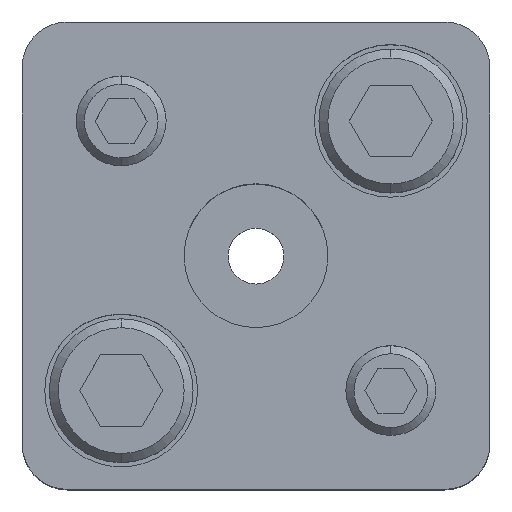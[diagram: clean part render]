
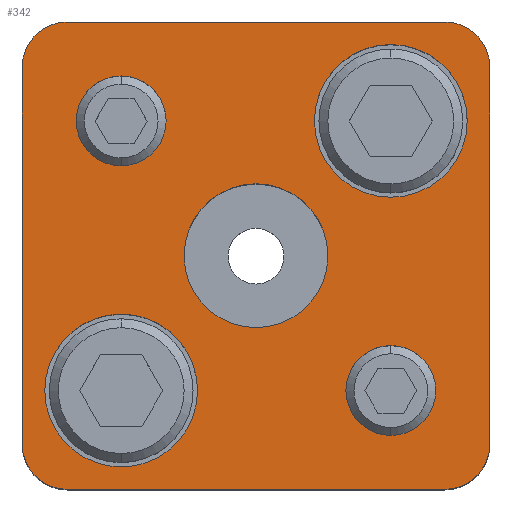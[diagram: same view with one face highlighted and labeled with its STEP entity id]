
A CAD part, top view. The second image highlights one B-rep face of the part: STEP entity #342.
In plain terms, the highlighted planar face has unit normal (0, 0, 1).
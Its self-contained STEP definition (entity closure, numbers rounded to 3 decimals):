
#169=PLANE('',#2888);
#244=FACE_BOUND('',#729,.T.);
#245=FACE_BOUND('',#730,.T.);
#246=FACE_BOUND('',#731,.T.);
#247=FACE_BOUND('',#732,.T.);
#248=FACE_BOUND('',#733,.T.);
#249=FACE_BOUND('',#734,.T.);
#342=ADVANCED_FACE('',(#244,#245,#246,#247,#248,#249),#169,.T.);
#729=EDGE_LOOP('',(#1539,#1540,#1541,#1542,#1543,#1544,#1545,#1546));
#730=EDGE_LOOP('',(#1547,#1548));
#731=EDGE_LOOP('',(#1549,#1550));
#732=EDGE_LOOP('',(#1551,#1552));
#733=EDGE_LOOP('',(#1553,#1554));
#734=EDGE_LOOP('',(#1555,#1556));
#907=LINE('',#4261,#1103);
#908=LINE('',#4265,#1104);
#909=LINE('',#4269,#1105);
#910=LINE('',#4273,#1106);
#1103=VECTOR('',#3427,1.);
#1104=VECTOR('',#3430,1.);
#1105=VECTOR('',#3433,1.);
#1106=VECTOR('',#3436,1.);
#1539=ORIENTED_EDGE('',*,*,#2357,.T.);
#1540=ORIENTED_EDGE('',*,*,#2358,.T.);
#1541=ORIENTED_EDGE('',*,*,#2359,.T.);
#1542=ORIENTED_EDGE('',*,*,#2360,.T.);
#1543=ORIENTED_EDGE('',*,*,#2361,.T.);
#1544=ORIENTED_EDGE('',*,*,#2362,.T.);
#1545=ORIENTED_EDGE('',*,*,#2363,.T.);
#1546=ORIENTED_EDGE('',*,*,#2364,.T.);
#1547=ORIENTED_EDGE('',*,*,#2365,.F.);
#1548=ORIENTED_EDGE('',*,*,#2366,.F.);
#1549=ORIENTED_EDGE('',*,*,#2367,.F.);
#1550=ORIENTED_EDGE('',*,*,#2368,.F.);
#1551=ORIENTED_EDGE('',*,*,#2343,.F.);
#1552=ORIENTED_EDGE('',*,*,#2339,.F.);
#1553=ORIENTED_EDGE('',*,*,#2337,.F.);
#1554=ORIENTED_EDGE('',*,*,#2333,.F.);
#1555=ORIENTED_EDGE('',*,*,#2369,.T.);
#1556=ORIENTED_EDGE('',*,*,#2370,.T.);
#2053=VERTEX_POINT('',#4209);
#2054=VERTEX_POINT('',#4210);
#2057=VERTEX_POINT('',#4222);
#2058=VERTEX_POINT('',#4223);
#2069=VERTEX_POINT('',#4259);
#2070=VERTEX_POINT('',#4260);
#2071=VERTEX_POINT('',#4262);
#2072=VERTEX_POINT('',#4264);
#2073=VERTEX_POINT('',#4266);
#2074=VERTEX_POINT('',#4268);
#2075=VERTEX_POINT('',#4270);
#2076=VERTEX_POINT('',#4272);
#2077=VERTEX_POINT('',#4275);
#2078=VERTEX_POINT('',#4276);
#2079=VERTEX_POINT('',#4279);
#2080=VERTEX_POINT('',#4280);
#2081=VERTEX_POINT('',#4283);
#2082=VERTEX_POINT('',#4284);
#2333=EDGE_CURVE('',#2053,#2054,#2635,.T.);
#2337=EDGE_CURVE('',#2054,#2053,#2637,.T.);
#2339=EDGE_CURVE('',#2057,#2058,#2639,.T.);
#2343=EDGE_CURVE('',#2058,#2057,#2641,.T.);
#2357=EDGE_CURVE('',#2069,#2070,#2651,.T.);
#2358=EDGE_CURVE('',#2070,#2071,#907,.T.);
#2359=EDGE_CURVE('',#2071,#2072,#2652,.T.);
#2360=EDGE_CURVE('',#2072,#2073,#908,.T.);
#2361=EDGE_CURVE('',#2073,#2074,#2653,.T.);
#2362=EDGE_CURVE('',#2074,#2075,#909,.T.);
#2363=EDGE_CURVE('',#2075,#2076,#2654,.T.);
#2364=EDGE_CURVE('',#2076,#2069,#910,.T.);
#2365=EDGE_CURVE('',#2077,#2078,#2655,.T.);
#2366=EDGE_CURVE('',#2078,#2077,#2656,.T.);
#2367=EDGE_CURVE('',#2079,#2080,#2657,.T.);
#2368=EDGE_CURVE('',#2080,#2079,#2658,.T.);
#2369=EDGE_CURVE('',#2081,#2082,#2659,.T.);
#2370=EDGE_CURVE('',#2082,#2081,#2660,.T.);
#2635=CIRCLE('',#2852,5.);
#2637=CIRCLE('',#2855,5.);
#2639=CIRCLE('',#2859,5.);
#2641=CIRCLE('',#2862,5.);
#2651=CIRCLE('',#2878,5.);
#2652=CIRCLE('',#2879,5.);
#2653=CIRCLE('',#2880,5.);
#2654=CIRCLE('',#2881,5.);
#2655=CIRCLE('',#2882,8.5);
#2656=CIRCLE('',#2883,8.5);
#2657=CIRCLE('',#2884,8.5);
#2658=CIRCLE('',#2885,8.5);
#2659=CIRCLE('',#2886,8.);
#2660=CIRCLE('',#2887,8.);
#2852=AXIS2_PLACEMENT_3D('',#4208,#3365,#3366);
#2855=AXIS2_PLACEMENT_3D('',#4217,#3373,#3374);
#2859=AXIS2_PLACEMENT_3D('',#4221,#3381,#3382);
#2862=AXIS2_PLACEMENT_3D('',#4230,#3389,#3390);
#2878=AXIS2_PLACEMENT_3D('',#4258,#3425,#3426);
#2879=AXIS2_PLACEMENT_3D('',#4263,#3428,#3429);
#2880=AXIS2_PLACEMENT_3D('',#4267,#3431,#3432);
#2881=AXIS2_PLACEMENT_3D('',#4271,#3434,#3435);
#2882=AXIS2_PLACEMENT_3D('',#4274,#3437,#3438);
#2883=AXIS2_PLACEMENT_3D('',#4277,#3439,#3440);
#2884=AXIS2_PLACEMENT_3D('',#4278,#3441,#3442);
#2885=AXIS2_PLACEMENT_3D('',#4281,#3443,#3444);
#2886=AXIS2_PLACEMENT_3D('',#4282,#3445,#3446);
#2887=AXIS2_PLACEMENT_3D('',#4285,#3447,#3448);
#2888=AXIS2_PLACEMENT_3D('',#4286,#3449,#3450);
#3365=DIRECTION('',(0.,0.,1.));
#3366=DIRECTION('',(-1.,0.,0.));
#3373=DIRECTION('',(0.,0.,1.));
#3374=DIRECTION('',(1.,0.,0.));
#3381=DIRECTION('',(0.,0.,1.));
#3382=DIRECTION('',(-1.,0.,0.));
#3389=DIRECTION('',(0.,0.,1.));
#3390=DIRECTION('',(1.,0.,0.));
#3425=DIRECTION('',(0.,0.,1.));
#3426=DIRECTION('',(-0.707,0.707,0.));
#3427=DIRECTION('',(0.,1.,0.));
#3428=DIRECTION('',(0.,0.,1.));
#3429=DIRECTION('',(-0.707,-0.707,0.));
#3430=DIRECTION('',(-1.,0.,0.));
#3431=DIRECTION('',(0.,0.,1.));
#3432=DIRECTION('',(0.707,-0.707,0.));
#3433=DIRECTION('',(0.,-1.,0.));
#3434=DIRECTION('',(0.,0.,1.));
#3435=DIRECTION('',(0.707,0.707,0.));
#3436=DIRECTION('',(1.,0.,0.));
#3437=DIRECTION('',(0.,0.,1.));
#3438=DIRECTION('',(1.,0.,0.));
#3439=DIRECTION('',(0.,0.,1.));
#3440=DIRECTION('',(-1.,0.,0.));
#3441=DIRECTION('',(0.,0.,1.));
#3442=DIRECTION('',(1.,0.,0.));
#3443=DIRECTION('',(0.,0.,1.));
#3444=DIRECTION('',(-1.,0.,0.));
#3445=DIRECTION('',(0.,0.,-1.));
#3446=DIRECTION('',(-1.,0.,0.));
#3447=DIRECTION('',(0.,0.,-1.));
#3448=DIRECTION('',(1.,0.,0.));
#3449=DIRECTION('',(0.,0.,1.));
#3450=DIRECTION('',(-1.,0.,0.));
#4208=CARTESIAN_POINT('',(15.,-15.,40.));
#4209=CARTESIAN_POINT('',(15.,-20.,40.));
#4210=CARTESIAN_POINT('',(15.,-10.,40.));
#4217=CARTESIAN_POINT('',(15.,-15.,40.));
#4221=CARTESIAN_POINT('',(-15.,15.,40.));
#4222=CARTESIAN_POINT('',(-15.,10.,40.));
#4223=CARTESIAN_POINT('',(-15.,20.,40.));
#4230=CARTESIAN_POINT('',(-15.,15.,40.));
#4258=CARTESIAN_POINT('',(21.,-21.,40.));
#4259=CARTESIAN_POINT('',(21.,-26.,40.));
#4260=CARTESIAN_POINT('',(26.,-21.,40.));
#4261=CARTESIAN_POINT('',(26.,21.,40.));
#4262=CARTESIAN_POINT('',(26.,21.,40.));
#4263=CARTESIAN_POINT('',(21.,21.,40.));
#4264=CARTESIAN_POINT('',(21.,26.,40.));
#4265=CARTESIAN_POINT('',(-21.,26.,40.));
#4266=CARTESIAN_POINT('',(-21.,26.,40.));
#4267=CARTESIAN_POINT('',(-21.,21.,40.));
#4268=CARTESIAN_POINT('',(-26.,21.,40.));
#4269=CARTESIAN_POINT('',(-26.,21.,40.));
#4270=CARTESIAN_POINT('',(-26.,-21.,40.));
#4271=CARTESIAN_POINT('',(-21.,-21.,40.));
#4272=CARTESIAN_POINT('',(-21.,-26.,40.));
#4273=CARTESIAN_POINT('',(-21.,-26.,40.));
#4274=CARTESIAN_POINT('',(15.,15.,40.));
#4275=CARTESIAN_POINT('',(15.,23.5,40.));
#4276=CARTESIAN_POINT('',(15.,6.5,40.));
#4277=CARTESIAN_POINT('',(15.,15.,40.));
#4278=CARTESIAN_POINT('',(-15.,-15.,40.));
#4279=CARTESIAN_POINT('',(-15.,-6.5,40.));
#4280=CARTESIAN_POINT('',(-15.,-23.5,40.));
#4281=CARTESIAN_POINT('',(-15.,-15.,40.));
#4282=CARTESIAN_POINT('',(0.,0.,40.));
#4283=CARTESIAN_POINT('',(0.,8.,40.));
#4284=CARTESIAN_POINT('',(0.,-8.,40.));
#4285=CARTESIAN_POINT('',(0.,0.,40.));
#4286=CARTESIAN_POINT('',(21.,-26.,40.));
